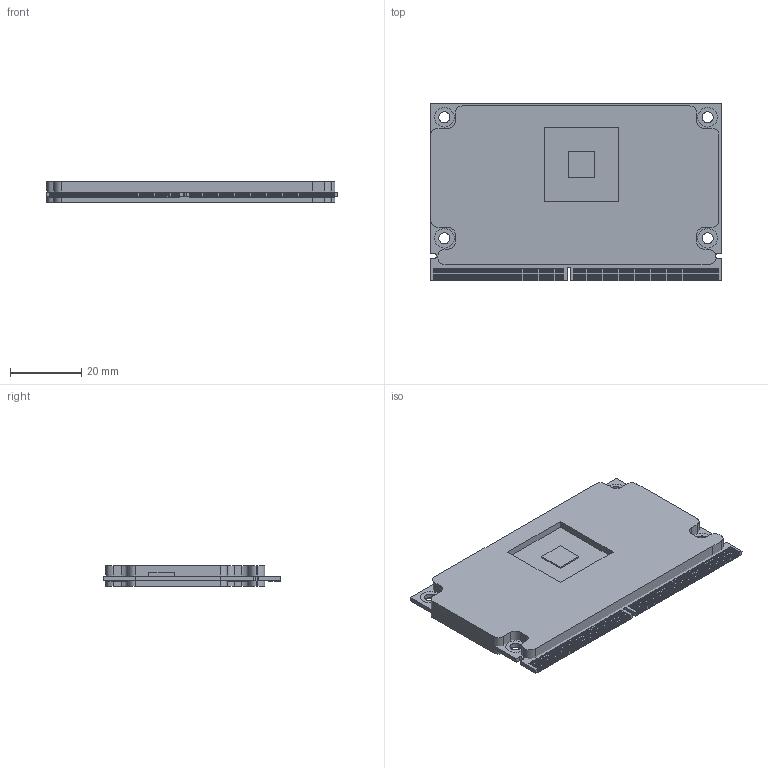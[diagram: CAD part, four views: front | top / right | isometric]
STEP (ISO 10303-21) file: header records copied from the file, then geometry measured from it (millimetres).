
FILE_DESCRIPTION(('CATIA V5 STEP'),'2;1');
FILE_NAME('\\NUFOTEC-SERVER\Projekt-Kunder\Embedded-Artists\Projekt-Cadfiler-Com+Carrier-Board\Cad-Data\Catia-V5-R19\iMX6Quad COM Board\160706-IMX6-Q-COM-BOARD-REV-A1-ASSY-COMMERCIAL-NUFOTEC-2016-08-17.stp','2016-08-19T09:08:00+00:00',('none'),('none'),'CATIA Version 5 Release 19 GA (IN-10)','CATIA V5 STEP AP214','none');
FILE_SCHEMA(('AUTOMOTIVE_DESIGN { 1 0 10303 214 1 1 1 1 }'));
Products named in the file (1): 160706IMX6QCOMBOARDREVA1_PCB_AS_ASM_AllCATPart
Bounding box: 82 x 50 x 5.7 mm (x, y, z)
Surface area: 27162.5 mm2
Topology: 726 solids, 726 shells, 6660 faces, 15780 edges, 10574 vertices
Faces by surface type: plane 6383, cylinder 277
Entity records: 188796 total; most frequent: CARTESIAN_POINT 32530, ORIENTED_EDGE 31560, DIRECTION 27957, EDGE_CURVE 15780, VECTOR 15064, LINE 15064, VERTEX_POINT 10574, AXIS2_PLACEMENT_3D 6799
